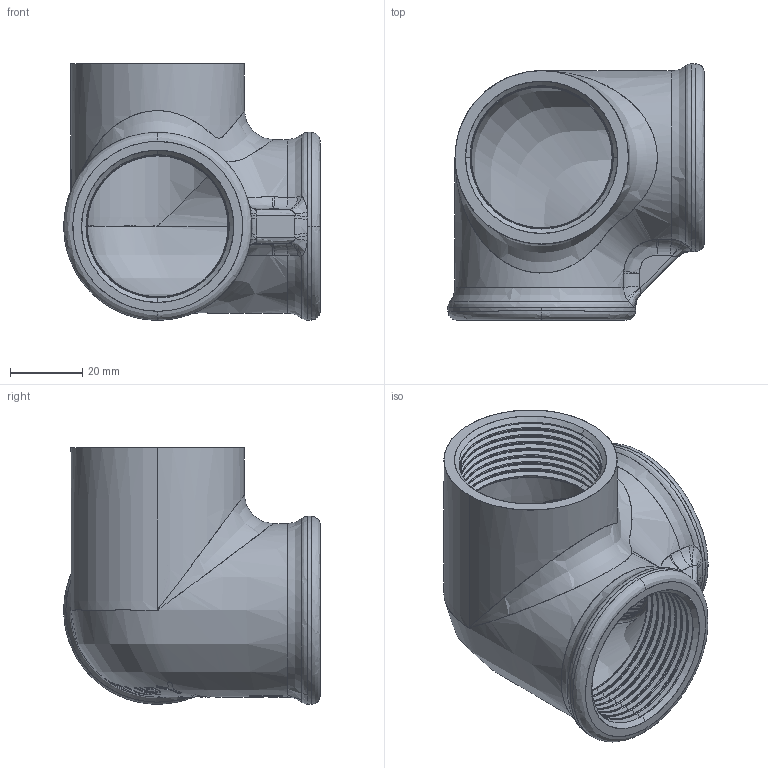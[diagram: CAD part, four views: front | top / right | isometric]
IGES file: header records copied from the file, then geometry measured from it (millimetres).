
Start section: SolidWorks IGES file using analytic representation for surfaces
Global section: file name: C:\Users\Joel Rosa\Desktop\Tubulação\12-15-XOK\12-05-008.IGS; native system: SolidWorks 2011; preprocessor: SolidWorks 2011; author: Joel Rosa; date: 130514.184511; units: millimetre
Bounding box: 71 x 71 x 71 mm (x, y, z)
Surface area: 35799.9 mm2 (no closed solid volume)
Topology: 0 solids, 0 shells, 447 faces, 4487 edges, 4478 vertices
Faces by surface type: bspline 325, revolution 122
